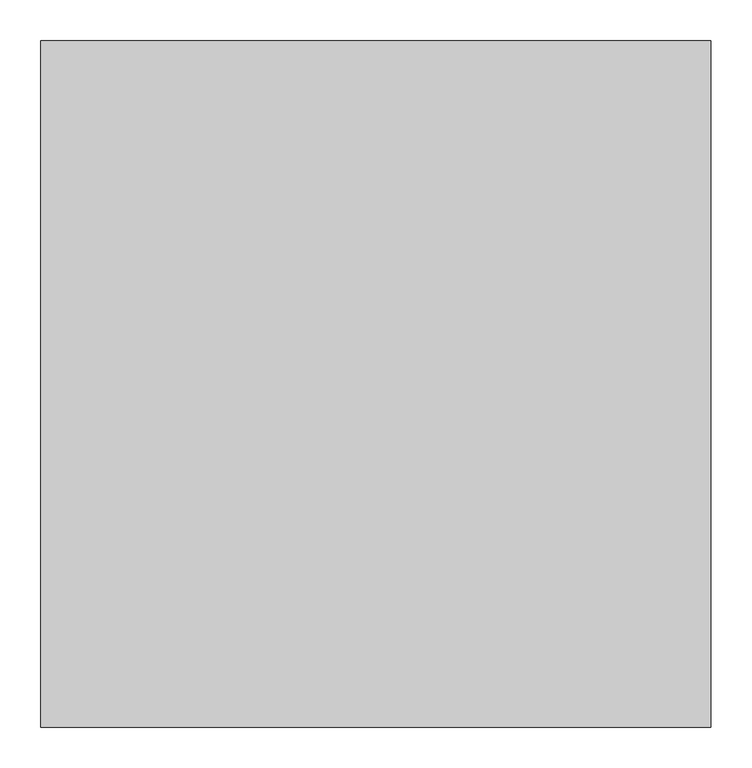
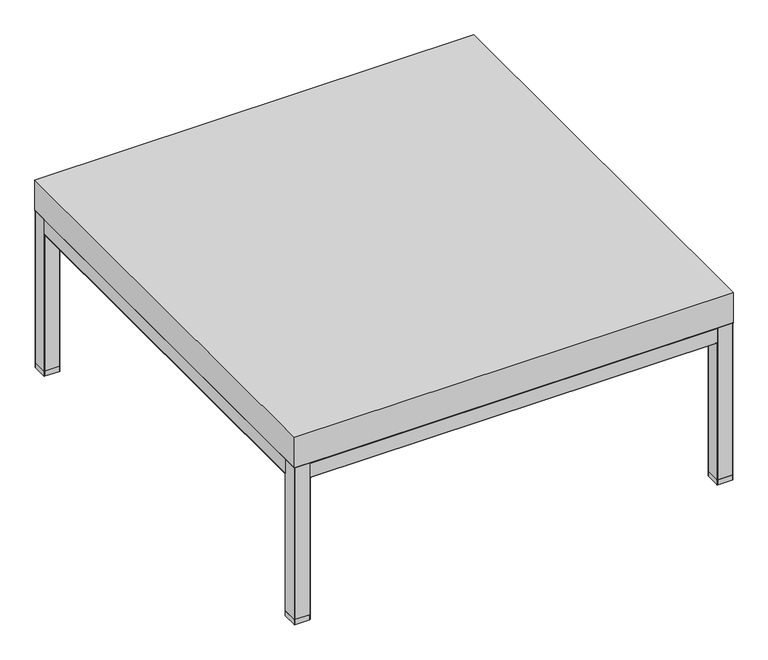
"""IFC4 building model written with IfcOpenShell, lengths in millimetres: furniture geometry, Mobilier - Table basse - 01 - 82 x 84 x 37 cm - Blanc brillant."""

from ifc_helpers import new_model, si_unit, point, frame, frame_2d, origin, origin_with_axes, place, context, project, spatial, polyline, circle_curve, trimmed, segment, composite_curve, outline, extrude, source, transform, mapped, element, save


def furniture_7373fb7a(model_context):
    return source(origin(), model_context, "Body", "SweptSolid", [
        extrude(outline(composite_curve([segment(trimmed(circle_curve(frame_2d((-391.0, 309.0)), 1.0), [point((-391.0, 310.0))], [point((-390.0, 309.0))], False, "CARTESIAN"), True, "CONTINUOUS"), segment(polyline([(-390.0, 309.0), (-390.0, 281.0)]), True, "CONTINUOUS"), segment(trimmed(circle_curve(frame_2d((-391.0, 281.0)), 1.0), [point((-390.0, 281.0))], [point((-391.0, 280.0))], False, "CARTESIAN"), True, "CONTINUOUS"), segment(polyline([(-391.0, 280.0), (-419.0, 280.0)]), True, "CONTINUOUS"), segment(trimmed(circle_curve(frame_2d((-419.0, 281.0)), 1.0), [point((-419.0, 280.0))], [point((-420.0, 281.0))], False, "CARTESIAN"), True, "CONTINUOUS"), segment(polyline([(-420.0, 281.0), (-420.0, 309.0)]), True, "CONTINUOUS"), segment(trimmed(circle_curve(frame_2d((-419.0, 309.0)), 1.0), [point((-420.0, 309.0))], [point((-419.0, 310.0))], False, "CARTESIAN"), True, "CONTINUOUS"), segment(polyline([(-419.0, 310.0), (-391.0, 310.0)]), True, "CONTINUOUS")], self_intersect=False)), frame((-380.0, 0.0, 0.0), z_axis=(1.0, 0.0, 0.0), x_axis=(0.0, 1.0, 0.0)), (0.0, 0.0, 1.0), 760.0),
        extrude(outline(composite_curve([segment(trimmed(circle_curve(frame_2d((281.0, 409.0)), 1.0), [point((280.0, 409.0))], [point((281.0, 410.0))], False, "CARTESIAN"), True, "CONTINUOUS"), segment(polyline([(281.0, 410.0), (309.0, 410.0)]), True, "CONTINUOUS"), segment(trimmed(circle_curve(frame_2d((309.0, 409.0)), 1.0), [point((309.0, 410.0))], [point((310.0, 409.0))], False, "CARTESIAN"), True, "CONTINUOUS"), segment(polyline([(310.0, 409.0), (310.0, 381.0)]), True, "CONTINUOUS"), segment(trimmed(circle_curve(frame_2d((309.0, 381.0)), 1.0), [point((310.0, 381.0))], [point((309.0, 380.0))], False, "CARTESIAN"), True, "CONTINUOUS"), segment(polyline([(309.0, 380.0), (281.0, 380.0)]), True, "CONTINUOUS"), segment(trimmed(circle_curve(frame_2d((281.0, 381.0)), 1.0), [point((281.0, 380.0))], [point((280.0, 381.0))], False, "CARTESIAN"), True, "CONTINUOUS"), segment(polyline([(280.0, 381.0), (280.0, 409.0)]), True, "CONTINUOUS")], self_intersect=False)), frame((0.0, -390.0, 0.0), z_axis=(0.0, 1.0, 0.0), x_axis=(0.0, 0.0, 1.0)), (0.0, 0.0, 1.0), 780.0),
        extrude(outline(composite_curve([segment(trimmed(circle_curve(frame_2d((281.0, -381.0)), 1.0), [point((280.0, -381.0))], [point((281.0, -380.0))], False, "CARTESIAN"), True, "CONTINUOUS"), segment(polyline([(281.0, -380.0), (309.0, -380.0)]), True, "CONTINUOUS"), segment(trimmed(circle_curve(frame_2d((309.0, -381.0)), 1.0), [point((309.0, -380.0))], [point((310.0, -381.0))], False, "CARTESIAN"), True, "CONTINUOUS"), segment(polyline([(310.0, -381.0), (310.0, -409.0)]), True, "CONTINUOUS"), segment(trimmed(circle_curve(frame_2d((309.0, -409.0)), 1.0), [point((310.0, -409.0))], [point((309.0, -410.0))], False, "CARTESIAN"), True, "CONTINUOUS"), segment(polyline([(309.0, -410.0), (281.0, -410.0)]), True, "CONTINUOUS"), segment(trimmed(circle_curve(frame_2d((281.0, -409.0)), 1.0), [point((281.0, -410.0))], [point((280.0, -409.0))], False, "CARTESIAN"), True, "CONTINUOUS"), segment(polyline([(280.0, -409.0), (280.0, -381.0)]), True, "CONTINUOUS")], self_intersect=False)), frame((0.0, -390.0, 0.0), z_axis=(0.0, 1.0, 0.0), x_axis=(0.0, 0.0, 1.0)), (0.0, 0.0, 1.0), 780.0),
        extrude(outline(composite_curve([segment(trimmed(circle_curve(frame_2d((409.0, 419.0)), 1.0), [point((409.0, 420.0))], [point((410.0, 419.0))], False, "CARTESIAN"), True, "CONTINUOUS"), segment(polyline([(410.0, 419.0), (410.0, 391.0)]), True, "CONTINUOUS"), segment(trimmed(circle_curve(frame_2d((409.0, 391.0)), 1.0), [point((410.0, 391.0))], [point((409.0, 390.0))], False, "CARTESIAN"), True, "CONTINUOUS"), segment(polyline([(409.0, 390.0), (381.0, 390.0)]), True, "CONTINUOUS"), segment(trimmed(circle_curve(frame_2d((381.0, 391.0)), 1.0), [point((381.0, 390.0))], [point((380.0, 391.0))], False, "CARTESIAN"), True, "CONTINUOUS"), segment(polyline([(380.0, 391.0), (380.0, 419.0)]), True, "CONTINUOUS"), segment(trimmed(circle_curve(frame_2d((381.0, 419.0)), 1.0), [point((380.0, 419.0))], [point((381.0, 420.0))], False, "CARTESIAN"), True, "CONTINUOUS"), segment(polyline([(381.0, 420.0), (409.0, 420.0)]), True, "CONTINUOUS")], self_intersect=False)), frame((0.0, 0.0, 10.0), z_axis=(0.0, 0.0, 1.0), x_axis=(1.0, 0.0, 0.0)), (0.0, 0.0, 1.0), 300.0),
        extrude(outline(composite_curve([segment(trimmed(circle_curve(frame_2d((-381.0, 419.0)), 1.0), [point((-381.0, 420.0))], [point((-380.0, 419.0))], False, "CARTESIAN"), True, "CONTINUOUS"), segment(polyline([(-380.0, 419.0), (-380.0, 391.0)]), True, "CONTINUOUS"), segment(trimmed(circle_curve(frame_2d((-381.0, 391.0)), 1.0), [point((-380.0, 391.0))], [point((-381.0, 390.0))], False, "CARTESIAN"), True, "CONTINUOUS"), segment(polyline([(-381.0, 390.0), (-409.0, 390.0)]), True, "CONTINUOUS"), segment(trimmed(circle_curve(frame_2d((-409.0, 391.0)), 1.0), [point((-409.0, 390.0))], [point((-410.0, 391.0))], False, "CARTESIAN"), True, "CONTINUOUS"), segment(polyline([(-410.0, 391.0), (-410.0, 419.0)]), True, "CONTINUOUS"), segment(trimmed(circle_curve(frame_2d((-409.0, 419.0)), 1.0), [point((-410.0, 419.0))], [point((-409.0, 420.0))], False, "CARTESIAN"), True, "CONTINUOUS"), segment(polyline([(-409.0, 420.0), (-381.0, 420.0)]), True, "CONTINUOUS")], self_intersect=False)), frame((0.0, 0.0, 10.0), z_axis=(0.0, 0.0, 1.0), x_axis=(1.0, 0.0, 0.0)), (0.0, 0.0, 1.0), 300.0),
        extrude(outline(composite_curve([segment(trimmed(circle_curve(frame_2d((409.0, -391.0)), 1.0), [point((409.0, -390.0))], [point((410.0, -391.0))], False, "CARTESIAN"), True, "CONTINUOUS"), segment(polyline([(410.0, -391.0), (410.0, -419.0)]), True, "CONTINUOUS"), segment(trimmed(circle_curve(frame_2d((409.0, -419.0)), 1.0), [point((410.0, -419.0))], [point((409.0, -420.0))], False, "CARTESIAN"), True, "CONTINUOUS"), segment(polyline([(409.0, -420.0), (381.0, -420.0)]), True, "CONTINUOUS"), segment(trimmed(circle_curve(frame_2d((381.0, -419.0)), 1.0), [point((381.0, -420.0))], [point((380.0, -419.0))], False, "CARTESIAN"), True, "CONTINUOUS"), segment(polyline([(380.0, -419.0), (380.0, -391.0)]), True, "CONTINUOUS"), segment(trimmed(circle_curve(frame_2d((381.0, -391.0)), 1.0), [point((380.0, -391.0))], [point((381.0, -390.0))], False, "CARTESIAN"), True, "CONTINUOUS"), segment(polyline([(381.0, -390.0), (409.0, -390.0)]), True, "CONTINUOUS")], self_intersect=False)), frame((0.0, 0.0, 10.0), z_axis=(0.0, 0.0, 1.0), x_axis=(1.0, 0.0, 0.0)), (0.0, 0.0, 1.0), 300.0),
        extrude(outline(composite_curve([segment(trimmed(circle_curve(frame_2d((-381.0, -391.0)), 1.0), [point((-381.0, -390.0))], [point((-380.0, -391.0))], False, "CARTESIAN"), True, "CONTINUOUS"), segment(polyline([(-380.0, -391.0), (-380.0, -419.0)]), True, "CONTINUOUS"), segment(trimmed(circle_curve(frame_2d((-381.0, -419.0)), 1.0), [point((-380.0, -419.0))], [point((-381.0, -420.0))], False, "CARTESIAN"), True, "CONTINUOUS"), segment(polyline([(-381.0, -420.0), (-409.0, -420.0)]), True, "CONTINUOUS"), segment(trimmed(circle_curve(frame_2d((-409.0, -419.0)), 1.0), [point((-409.0, -420.0))], [point((-410.0, -419.0))], False, "CARTESIAN"), True, "CONTINUOUS"), segment(polyline([(-410.0, -419.0), (-410.0, -391.0)]), True, "CONTINUOUS"), segment(trimmed(circle_curve(frame_2d((-409.0, -391.0)), 1.0), [point((-410.0, -391.0))], [point((-409.0, -390.0))], False, "CARTESIAN"), True, "CONTINUOUS"), segment(polyline([(-409.0, -390.0), (-381.0, -390.0)]), True, "CONTINUOUS")], self_intersect=False)), frame((0.0, 0.0, 10.0), z_axis=(0.0, 0.0, 1.0), x_axis=(1.0, 0.0, 0.0)), (0.0, 0.0, 1.0), 300.0),
        extrude(outline(composite_curve([segment(polyline([(-381.0, -420.0), (-409.0, -420.0)]), True, "CONTINUOUS"), segment(trimmed(circle_curve(frame_2d((-409.0, -419.0)), 1.0), [point((-409.0, -420.0))], [point((-410.0, -419.0))], False, "CARTESIAN"), True, "CONTINUOUS"), segment(polyline([(-410.0, -419.0), (-410.0, -391.0)]), True, "CONTINUOUS"), segment(trimmed(circle_curve(frame_2d((-409.0, -391.0)), 1.0), [point((-410.0, -391.0))], [point((-409.0, -390.0))], False, "CARTESIAN"), True, "CONTINUOUS"), segment(polyline([(-409.0, -390.0), (-381.0, -390.0)]), True, "CONTINUOUS"), segment(trimmed(circle_curve(frame_2d((-381.0, -391.0)), 1.0), [point((-381.0, -390.0))], [point((-380.0, -391.0))], False, "CARTESIAN"), True, "CONTINUOUS"), segment(polyline([(-380.0, -391.0), (-380.0, -419.0)]), True, "CONTINUOUS"), segment(trimmed(circle_curve(frame_2d((-381.0, -419.0)), 1.0), [point((-380.0, -419.0))], [point((-381.0, -420.0))], False, "CARTESIAN"), True, "CONTINUOUS")], self_intersect=False)), origin_with_axes(), (0.0, 0.0, 1.0), 10.0),
        extrude(outline(composite_curve([segment(polyline([(409.0, 390.0), (381.0, 390.0)]), True, "CONTINUOUS"), segment(trimmed(circle_curve(frame_2d((381.0, 391.0)), 1.0), [point((381.0, 390.0))], [point((380.0, 391.0))], False, "CARTESIAN"), True, "CONTINUOUS"), segment(polyline([(380.0, 391.0), (380.0, 419.0)]), True, "CONTINUOUS"), segment(trimmed(circle_curve(frame_2d((381.0, 419.0)), 1.0), [point((380.0, 419.0))], [point((381.0, 420.0))], False, "CARTESIAN"), True, "CONTINUOUS"), segment(polyline([(381.0, 420.0), (409.0, 420.0)]), True, "CONTINUOUS"), segment(trimmed(circle_curve(frame_2d((409.0, 419.0)), 1.0), [point((409.0, 420.0))], [point((410.0, 419.0))], False, "CARTESIAN"), True, "CONTINUOUS"), segment(polyline([(410.0, 419.0), (410.0, 391.0)]), True, "CONTINUOUS"), segment(trimmed(circle_curve(frame_2d((409.0, 391.0)), 1.0), [point((410.0, 391.0))], [point((409.0, 390.0))], False, "CARTESIAN"), True, "CONTINUOUS")], self_intersect=False)), origin_with_axes(), (0.0, 0.0, 1.0), 10.0),
        extrude(outline(composite_curve([segment(polyline([(-381.0, 390.0), (-409.0, 390.0)]), True, "CONTINUOUS"), segment(trimmed(circle_curve(frame_2d((-409.0, 391.0)), 1.0), [point((-409.0, 390.0))], [point((-410.0, 391.0))], False, "CARTESIAN"), True, "CONTINUOUS"), segment(polyline([(-410.0, 391.0), (-410.0, 419.0)]), True, "CONTINUOUS"), segment(trimmed(circle_curve(frame_2d((-409.0, 419.0)), 1.0), [point((-410.0, 419.0))], [point((-409.0, 420.0))], False, "CARTESIAN"), True, "CONTINUOUS"), segment(polyline([(-409.0, 420.0), (-381.0, 420.0)]), True, "CONTINUOUS"), segment(trimmed(circle_curve(frame_2d((-381.0, 419.0)), 1.0), [point((-381.0, 420.0))], [point((-380.0, 419.0))], False, "CARTESIAN"), True, "CONTINUOUS"), segment(polyline([(-380.0, 419.0), (-380.0, 391.0)]), True, "CONTINUOUS"), segment(trimmed(circle_curve(frame_2d((-381.0, 391.0)), 1.0), [point((-380.0, 391.0))], [point((-381.0, 390.0))], False, "CARTESIAN"), True, "CONTINUOUS")], self_intersect=False)), origin_with_axes(), (0.0, 0.0, 1.0), 10.0),
        extrude(outline(composite_curve([segment(trimmed(circle_curve(frame_2d((409.0, -391.0)), 1.0), [point((409.0, -390.0))], [point((410.0, -391.0))], False, "CARTESIAN"), True, "CONTINUOUS"), segment(polyline([(410.0, -391.0), (410.0, -419.0)]), True, "CONTINUOUS"), segment(trimmed(circle_curve(frame_2d((409.0, -419.0)), 1.0), [point((410.0, -419.0))], [point((409.0, -420.0))], False, "CARTESIAN"), True, "CONTINUOUS"), segment(polyline([(409.0, -420.0), (381.0, -420.0)]), True, "CONTINUOUS"), segment(trimmed(circle_curve(frame_2d((381.0, -419.0)), 1.0), [point((381.0, -420.0))], [point((380.0, -419.0))], False, "CARTESIAN"), True, "CONTINUOUS"), segment(polyline([(380.0, -419.0), (380.0, -391.0)]), True, "CONTINUOUS"), segment(trimmed(circle_curve(frame_2d((381.0, -391.0)), 1.0), [point((380.0, -391.0))], [point((381.0, -390.0))], False, "CARTESIAN"), True, "CONTINUOUS"), segment(polyline([(381.0, -390.0), (409.0, -390.0)]), True, "CONTINUOUS")], self_intersect=False)), origin_with_axes(), (0.0, 0.0, 1.0), 10.0),
        extrude(outline(polyline([(410.0, 420.0), (410.0, -420.0), (-410.0, -420.0), (-410.0, 420.0), (410.0, 420.0)])), frame((0.0, 0.0, 310.0), z_axis=(0.0, 0.0, 1.0), x_axis=(1.0, 0.0, 0.0)), (0.0, 0.0, 1.0), 60.0),
        extrude(outline(composite_curve([segment(trimmed(circle_curve(frame_2d((419.0, 309.0)), 1.0), [point((419.0, 310.0))], [point((420.0, 309.0))], False, "CARTESIAN"), True, "CONTINUOUS"), segment(polyline([(420.0, 309.0), (420.0, 281.0)]), True, "CONTINUOUS"), segment(trimmed(circle_curve(frame_2d((419.0, 281.0)), 1.0), [point((420.0, 281.0))], [point((419.0, 280.0))], False, "CARTESIAN"), True, "CONTINUOUS"), segment(polyline([(419.0, 280.0), (391.0, 280.0)]), True, "CONTINUOUS"), segment(trimmed(circle_curve(frame_2d((391.0, 281.0)), 1.0), [point((391.0, 280.0))], [point((390.0, 281.0))], False, "CARTESIAN"), True, "CONTINUOUS"), segment(polyline([(390.0, 281.0), (390.0, 309.0)]), True, "CONTINUOUS"), segment(trimmed(circle_curve(frame_2d((391.0, 309.0)), 1.0), [point((390.0, 309.0))], [point((391.0, 310.0))], False, "CARTESIAN"), True, "CONTINUOUS"), segment(polyline([(391.0, 310.0), (419.0, 310.0)]), True, "CONTINUOUS")], self_intersect=False)), frame((-380.0, 0.0, 0.0), z_axis=(1.0, 0.0, 0.0), x_axis=(0.0, 1.0, 0.0)), (0.0, 0.0, 1.0), 760.0),
    ])


if __name__ == "__main__":
    model = new_model("IFC4")
    model_context = context("Model", 3, world=origin())
    ifc_project = project(units=[si_unit("LENGTHUNIT", "METRE", prefix="MILLI")], contexts=[model_context])
    site = spatial("IfcSite", under=ifc_project)
    building = spatial("IfcBuilding", under=site)
    placement = place(None, origin())
    furniture_shape = furniture_7373fb7a(model_context)
    element("IfcFurniture", 1, ObjectType="Mobilier - Table basse - 01 - 82 x 84 x 37 cm - Blanc brillant", at=placement, inside=building, context=model_context, shape_type="MappedRepresentation", body=[
        mapped(furniture_shape, transform((0.0, 0.0, 0.0), x_axis=(1.0, 0.0, 0.0), y_axis=(0.0, 1.0, 0.0), z_axis=(0.0, 0.0, 1.0))),
    ])
    save(model, "model.ifc")
